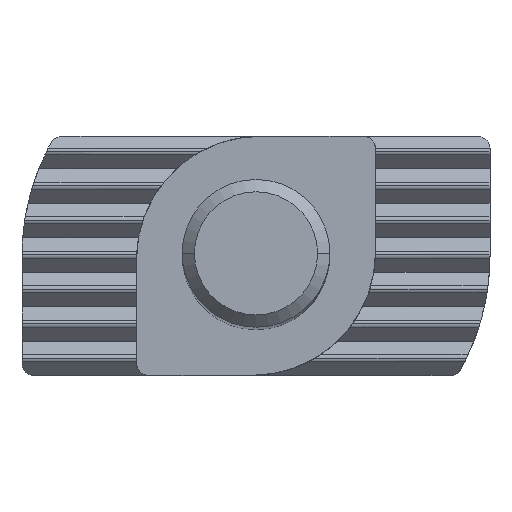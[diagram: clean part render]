
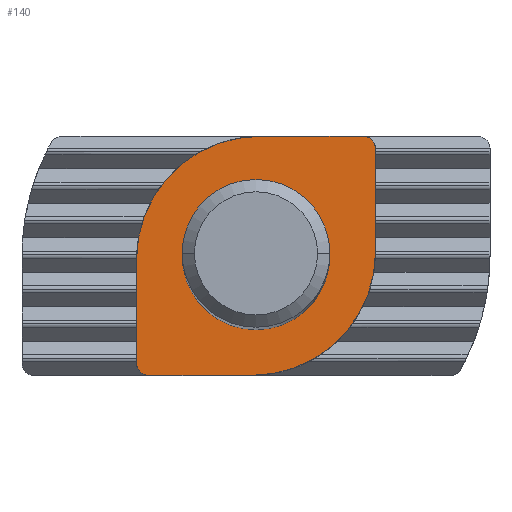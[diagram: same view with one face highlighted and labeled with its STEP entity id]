
A CAD part, top view. The second image highlights one B-rep face of the part: STEP entity #140.
In plain terms, the highlighted planar face has unit normal (0, 0, 1).
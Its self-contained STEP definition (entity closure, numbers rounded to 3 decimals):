
#140=ADVANCED_FACE('NONE',(#340,#341),#342,.F.);
#340=FACE_OUTER_BOUND('',#598,.T.);
#341=FACE_BOUND('',#599,.T.);
#342=PLANE('',#600);
#598=EDGE_LOOP('',(#933,#934,#935,#936,#937,#938,#939,#940));
#599=EDGE_LOOP('',(#941,#942));
#600=AXIS2_PLACEMENT_3D('',#943,#944,#945);
#933=ORIENTED_EDGE('',*,*,#1689,.T.);
#934=ORIENTED_EDGE('',*,*,#1690,.T.);
#935=ORIENTED_EDGE('',*,*,#1691,.T.);
#936=ORIENTED_EDGE('',*,*,#1692,.T.);
#937=ORIENTED_EDGE('',*,*,#1693,.T.);
#938=ORIENTED_EDGE('',*,*,#1694,.T.);
#939=ORIENTED_EDGE('',*,*,#1695,.T.);
#940=ORIENTED_EDGE('',*,*,#1696,.T.);
#941=ORIENTED_EDGE('',*,*,#1697,.F.);
#942=ORIENTED_EDGE('',*,*,#1686,.F.);
#943=CARTESIAN_POINT('',(-0.15,0.15,8.8));
#944=DIRECTION('',(0.0,0.0,-1.0));
#945=DIRECTION('',(0.0,-1.0,0.0));
#1686=EDGE_CURVE('NONE',#2068,#2070,#2071,.T.);
#1689=EDGE_CURVE('NONE',#2074,#2075,#2076,.T.);
#1690=EDGE_CURVE('NONE',#2075,#2077,#2078,.T.);
#1691=EDGE_CURVE('NONE',#2077,#2079,#2080,.T.);
#1692=EDGE_CURVE('NONE',#2079,#2081,#2082,.T.);
#1693=EDGE_CURVE('NONE',#2081,#2083,#2084,.T.);
#1694=EDGE_CURVE('NONE',#2083,#2085,#2086,.T.);
#1695=EDGE_CURVE('NONE',#2085,#2087,#2088,.T.);
#1696=EDGE_CURVE('NONE',#2087,#2074,#2089,.T.);
#1697=EDGE_CURVE('NONE',#2070,#2068,#2090,.T.);
#2068=VERTEX_POINT('NONE',#2651);
#2070=VERTEX_POINT('NONE',#2654);
#2071=CIRCLE('',#2655,3.0);
#2074=VERTEX_POINT('NONE',#2659);
#2075=VERTEX_POINT('NONE',#2660);
#2076=LINE('',#2661,#2662);
#2077=VERTEX_POINT('NONE',#2663);
#2078=CIRCLE('',#2664,0.5);
#2079=VERTEX_POINT('NONE',#2665);
#2080=LINE('',#2666,#2667);
#2081=VERTEX_POINT('NONE',#2668);
#2082=CIRCLE('',#2669,5.0);
#2083=VERTEX_POINT('NONE',#2670);
#2084=LINE('',#2671,#2672);
#2085=VERTEX_POINT('NONE',#2673);
#2086=CIRCLE('',#2674,0.5);
#2087=VERTEX_POINT('NONE',#2675);
#2088=LINE('',#2676,#2677);
#2089=CIRCLE('',#2678,5.0);
#2090=CIRCLE('',#2679,3.0);
#2651=CARTESIAN_POINT('',(3.0,0.,8.8));
#2654=CARTESIAN_POINT('',(-3.0,0.,8.8));
#2655=AXIS2_PLACEMENT_3D('',#3618,#3619,#3620);
#2659=CARTESIAN_POINT('',(4.85,0.15,8.8));
#2660=CARTESIAN_POINT('',(4.85,4.35,8.8));
#2661=CARTESIAN_POINT('',(4.85,4.85,8.8));
#2662=VECTOR('',#3622,1000.0);
#2663=CARTESIAN_POINT('',(4.35,4.85,8.8));
#2664=AXIS2_PLACEMENT_3D('',#3623,#3624,#3625);
#2665=CARTESIAN_POINT('',(0.15,4.85,8.8));
#2666=CARTESIAN_POINT('',(0.15,4.85,8.8));
#2667=VECTOR('',#3626,1000.0);
#2668=CARTESIAN_POINT('',(-4.85,-0.15,8.8));
#2669=AXIS2_PLACEMENT_3D('',#3627,#3628,#3629);
#2670=CARTESIAN_POINT('',(-4.85,-4.35,8.8));
#2671=CARTESIAN_POINT('',(-4.85,-0.15,8.8));
#2672=VECTOR('',#3630,1000.0);
#2673=CARTESIAN_POINT('',(-4.35,-4.85,8.8));
#2674=AXIS2_PLACEMENT_3D('',#3631,#3632,#3633);
#2675=CARTESIAN_POINT('',(-0.15,-4.85,8.8));
#2676=CARTESIAN_POINT('',(-0.15,-4.85,8.8));
#2677=VECTOR('',#3634,1000.0);
#2678=AXIS2_PLACEMENT_3D('',#3635,#3636,#3637);
#2679=AXIS2_PLACEMENT_3D('',#3638,#3639,#3640);
#3618=CARTESIAN_POINT('',(0.0,0.,8.8));
#3619=DIRECTION('',(0.0,0.0,1.0));
#3620=DIRECTION('',(-1.0,0.0,0.0));
#3622=DIRECTION('',(0.0,1.0,0.0));
#3623=CARTESIAN_POINT('',(4.35,4.35,8.8));
#3624=DIRECTION('',(0.0,0.0,1.0));
#3625=DIRECTION('',(-1.0,0.0,0.0));
#3626=DIRECTION('',(-1.0,0.0,0.0));
#3627=CARTESIAN_POINT('',(0.15,-0.15,8.8));
#3628=DIRECTION('',(0.0,0.0,1.0));
#3629=DIRECTION('',(1.0,0.0,0.0));
#3630=DIRECTION('',(0.,-1.0,0.0));
#3631=CARTESIAN_POINT('',(-4.35,-4.35,8.8));
#3632=DIRECTION('',(0.0,0.0,1.0));
#3633=DIRECTION('',(-1.0,0.0,0.0));
#3634=DIRECTION('',(1.0,0.,0.0));
#3635=CARTESIAN_POINT('',(-0.15,0.15,8.8));
#3636=DIRECTION('',(0.0,0.0,1.0));
#3637=DIRECTION('',(-1.0,0.0,0.0));
#3638=CARTESIAN_POINT('',(0.0,0.,8.8));
#3639=DIRECTION('',(0.0,0.0,1.0));
#3640=DIRECTION('',(-1.0,0.0,0.0));
